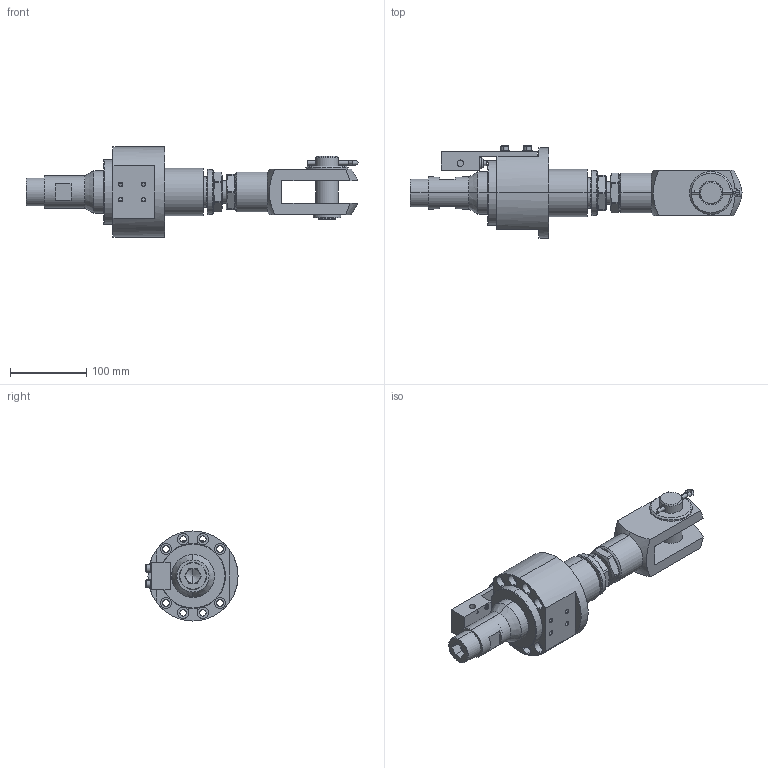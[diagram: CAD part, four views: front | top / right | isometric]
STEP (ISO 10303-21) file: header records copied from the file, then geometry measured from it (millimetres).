
FILE_DESCRIPTION (( 'STEP AP203' ), '1' );
FILE_NAME ('020613KM1_MVA_035_01_-_A1.1~2.STEP', '2026-07-21T11:25:40', ( '' ), ( '' ), 'SwSTEP 2.0', 'SolidWorks 2025', '' );
FILE_SCHEMA (( 'CONFIG_CONTROL_DESIGN' ));
Length unit declared in the file: millimetre
Products named in the file (1): 020613KM1_MVA_035_01_-_A1.1~2
Bounding box: 435.13 x 120.6 x 118 mm (x, y, z)
Volume: 824856.4 mm3; surface area: 235331.8 mm2
Topology: 3 solids, 14 shells, 715 faces, 1725 edges, 1090 vertices
Faces by surface type: plane 359, cylinder 218, cone 104, torus 20, bspline 10, sphere 4
Entity records: 24126 total; most frequent: CARTESIAN_POINT 7214, DIRECTION 3577, ORIENTED_EDGE 3390, EDGE_CURVE 1695, AXIS2_PLACEMENT_3D 1301, VERTEX_POINT 1084, LINE 975, VECTOR 975
